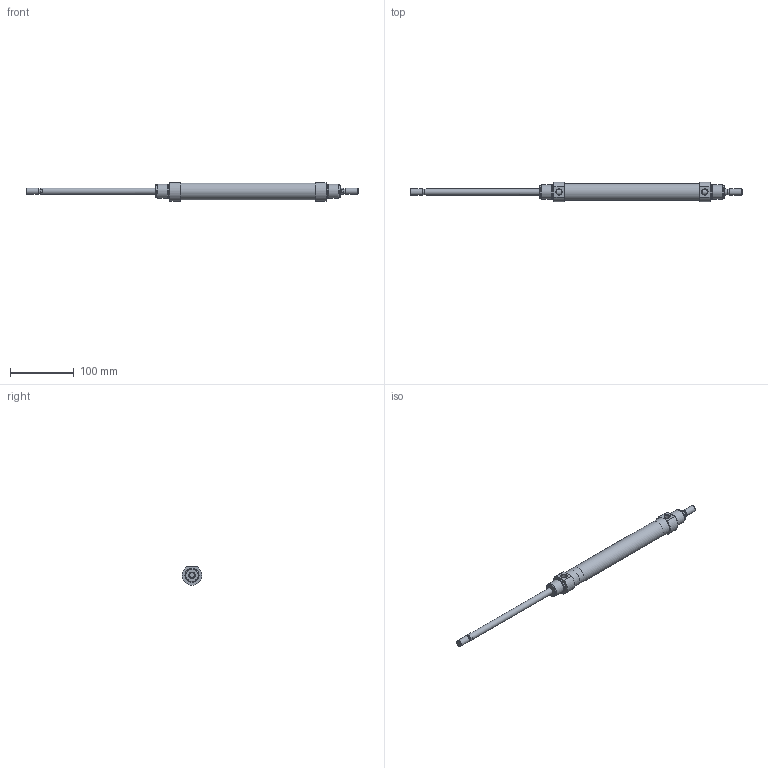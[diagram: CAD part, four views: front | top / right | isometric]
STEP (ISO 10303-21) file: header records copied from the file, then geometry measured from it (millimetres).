
FILE_DESCRIPTION( ( 'STEP AP203' ), '1' );
FILE_NAME( '//expscmdclustefs.cadenas.external/client_exchange/iodir/jobs/output/wkb68465265_no0/STEP/M101-025-0175--__0__2_03.stp', ' ', ( ' ' ), ( ' ' ), 'PSStep 15.0.47', 'PARTsolutions', ' ' );
FILE_SCHEMA( ( 'CONFIG_CONTROL_DESIGN' ) );
Length unit declared in the file: millimetre
Products named in the file (3): M101-025-0175-- [0]; HI_M101-025-0175---[0]-z; HI_M101-025-0175---[0]-k
Assembly tree (2 placements, depth 2):
  M101-025-0175-- [0]
    HI_M101-025-0175---[0]-z
    HI_M101-025-0175---[0]-k
Bounding box: 519 x 31 x 28.79 mm (x, y, z)
Volume: 102253.2 mm3; surface area: 62128.6 mm2
Topology: 2 solids, 2 shells, 63 faces, 123 edges, 74 vertices
Faces by surface type: plane 28, cylinder 23, cone 10, torus 2
Full cylindrical faces by diameter (mm): 8.16 x2, 8.566 x2, 10 x6, 20.16 x4, 22 x4, 25 x2, 26.6 x1
Entity records: 1700 total; most frequent: CARTESIAN_POINT 390, DIRECTION 276, ORIENTED_EDGE 176, AXIS2_PLACEMENT_3D 124, EDGE_LOOP 112, EDGE_CURVE 88, FACE_OUTER_BOUND 86, VERTEX_POINT 72
